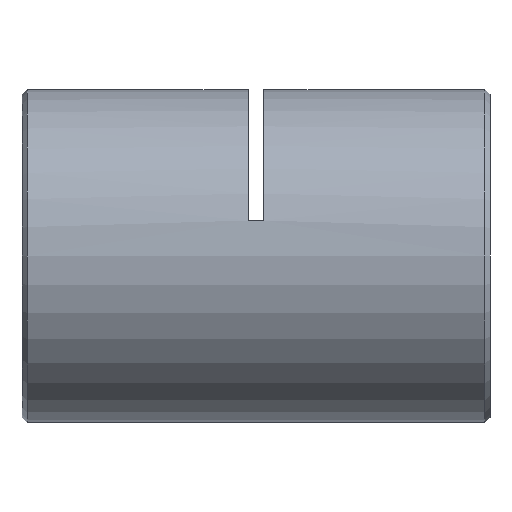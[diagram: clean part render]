
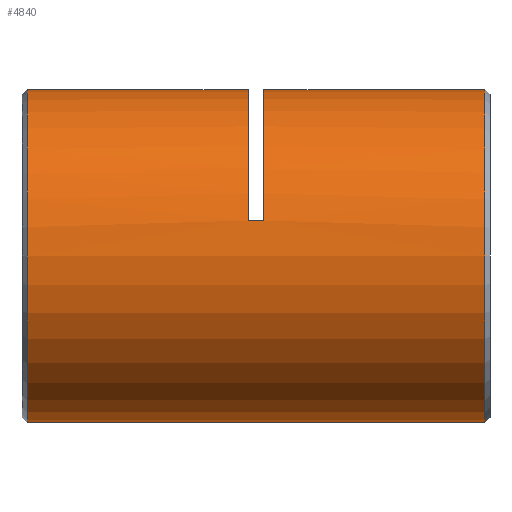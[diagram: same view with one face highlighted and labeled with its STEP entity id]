
A CAD part, left-side view. The second image highlights one B-rep face of the part: STEP entity #4840.
In plain terms, the highlighted cylindrical face has radius 16 mm (diameter 32 mm), a partial arc.
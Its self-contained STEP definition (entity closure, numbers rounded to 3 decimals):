
#37 = VECTOR ( 'NONE', #3394, 1000. ) ;
#88 = ORIENTED_EDGE ( 'NONE', *, *, #3527, .T. ) ;
#281 = CARTESIAN_POINT ( 'NONE',  ( 0., 22., 16. ) ) ;
#320 = DIRECTION ( 'NONE',  ( 0., 1., 0. ) ) ;
#366 = DIRECTION ( 'NONE',  ( 0., 1., 0. ) ) ;
#501 = CARTESIAN_POINT ( 'NONE',  ( 0., 0., 0. ) ) ;
#552 = CARTESIAN_POINT ( 'NONE',  ( 0., 44.75, -16. ) ) ;
#684 = CARTESIAN_POINT ( 'NONE',  ( 0., 23.5, 16. ) ) ;
#759 = AXIS2_PLACEMENT_3D ( 'NONE', #5258, #3839, #1296 ) ;
#839 = LINE ( 'NONE', #4838, #4246 ) ;
#875 = VERTEX_POINT ( 'NONE', #3777 ) ;
#876 = CIRCLE ( 'NONE', #5413, 16. ) ;
#1074 = CIRCLE ( 'NONE', #1169, 16. ) ;
#1151 = VERTEX_POINT ( 'NONE', #2083 ) ;
#1156 = DIRECTION ( 'NONE',  ( 0., -1., 0. ) ) ;
#1169 = AXIS2_PLACEMENT_3D ( 'NONE', #3699, #320, #2271 ) ;
#1263 = CIRCLE ( 'NONE', #759, 16. ) ;
#1296 = DIRECTION ( 'NONE',  ( 0., 0., 1. ) ) ;
#1334 = ORIENTED_EDGE ( 'NONE', *, *, #3310, .T. ) ;
#1376 = AXIS2_PLACEMENT_3D ( 'NONE', #4447, #5461, #5915 ) ;
#1426 = CARTESIAN_POINT ( 'NONE',  ( -15.632, 22., 3.413 ) ) ;
#1843 = ORIENTED_EDGE ( 'NONE', *, *, #5744, .F. ) ;
#1930 = DIRECTION ( 'NONE',  ( 0., 0., 1. ) ) ;
#1988 = VECTOR ( 'NONE', #3903, 1000. ) ;
#2083 = CARTESIAN_POINT ( 'NONE',  ( 0., 0.75, -16. ) ) ;
#2219 = VERTEX_POINT ( 'NONE', #2506 ) ;
#2271 = DIRECTION ( 'NONE',  ( 0., 0., 1. ) ) ;
#2355 = VERTEX_POINT ( 'NONE', #1426 ) ;
#2506 = CARTESIAN_POINT ( 'NONE',  ( 0., 0.75, 16. ) ) ;
#2584 = CARTESIAN_POINT ( 'NONE',  ( 0., 0., -16. ) ) ;
#2608 = ORIENTED_EDGE ( 'NONE', *, *, #2851, .T. ) ;
#2824 = VECTOR ( 'NONE', #3092, 1000. ) ;
#2841 = EDGE_LOOP ( 'NONE', ( #5564, #4693, #1334, #1843, #2608, #5160, #88, #6232 ) ) ;
#2851 = EDGE_CURVE ( 'NONE', #2355, #875, #3843, .T. ) ;
#2971 = CYLINDRICAL_SURFACE ( 'NONE', #4273, 16. ) ;
#3092 = DIRECTION ( 'NONE',  ( 0., 1., 0. ) ) ;
#3256 = CARTESIAN_POINT ( 'NONE',  ( 0., 44.75, 16. ) ) ;
#3310 = EDGE_CURVE ( 'NONE', #2219, #6178, #4357, .T. ) ;
#3362 = CARTESIAN_POINT ( 'NONE',  ( -15.632, 22.75, 3.413 ) ) ;
#3369 = EDGE_CURVE ( 'NONE', #875, #5625, #4473, .T. ) ;
#3389 = CARTESIAN_POINT ( 'NONE',  ( 0., 0., 16. ) ) ;
#3394 = DIRECTION ( 'NONE',  ( 0., 1., 0. ) ) ;
#3487 = DIRECTION ( 'NONE',  ( 0., 1., 0. ) ) ;
#3527 = EDGE_CURVE ( 'NONE', #5625, #5769, #839, .T. ) ;
#3623 = VERTEX_POINT ( 'NONE', #552 ) ;
#3699 = CARTESIAN_POINT ( 'NONE',  ( 0., 22., 0. ) ) ;
#3777 = CARTESIAN_POINT ( 'NONE',  ( -15.632, 23.5, 3.413 ) ) ;
#3839 = DIRECTION ( 'NONE',  ( 0., 1., 0. ) ) ;
#3843 = LINE ( 'NONE', #3362, #37 ) ;
#3903 = DIRECTION ( 'NONE',  ( 0., 1., 0. ) ) ;
#4004 = FACE_OUTER_BOUND ( 'NONE', #2841, .T. ) ;
#4073 = CARTESIAN_POINT ( 'NONE',  ( 0., 44.75, 0. ) ) ;
#4246 = VECTOR ( 'NONE', #366, 1000. ) ;
#4273 = AXIS2_PLACEMENT_3D ( 'NONE', #501, #3487, #1930 ) ;
#4357 = LINE ( 'NONE', #3389, #1988 ) ;
#4447 = CARTESIAN_POINT ( 'NONE',  ( 0., 23.5, 0. ) ) ;
#4473 = CIRCLE ( 'NONE', #1376, 16. ) ;
#4693 = ORIENTED_EDGE ( 'NONE', *, *, #5418, .T. ) ;
#4838 = CARTESIAN_POINT ( 'NONE',  ( 0., 0., 16. ) ) ;
#4840 = ADVANCED_FACE ( 'NONE', ( #4004 ), #2971, .T. ) ;
#4984 = EDGE_CURVE ( 'NONE', #5769, #3623, #876, .T. ) ;
#5035 = LINE ( 'NONE', #2584, #2824 ) ;
#5053 = EDGE_CURVE ( 'NONE', #1151, #3623, #5035, .T. ) ;
#5102 = DIRECTION ( 'NONE',  ( 0., 0., -1. ) ) ;
#5160 = ORIENTED_EDGE ( 'NONE', *, *, #3369, .T. ) ;
#5258 = CARTESIAN_POINT ( 'NONE',  ( 0., 0.75, 0. ) ) ;
#5413 = AXIS2_PLACEMENT_3D ( 'NONE', #4073, #1156, #5102 ) ;
#5418 = EDGE_CURVE ( 'NONE', #1151, #2219, #1263, .T. ) ;
#5461 = DIRECTION ( 'NONE',  ( 0., 1., 0. ) ) ;
#5564 = ORIENTED_EDGE ( 'NONE', *, *, #5053, .F. ) ;
#5625 = VERTEX_POINT ( 'NONE', #684 ) ;
#5744 = EDGE_CURVE ( 'NONE', #2355, #6178, #1074, .T. ) ;
#5769 = VERTEX_POINT ( 'NONE', #3256 ) ;
#5915 = DIRECTION ( 'NONE',  ( 0., 0., 1. ) ) ;
#6178 = VERTEX_POINT ( 'NONE', #281 ) ;
#6232 = ORIENTED_EDGE ( 'NONE', *, *, #4984, .T. ) ;
